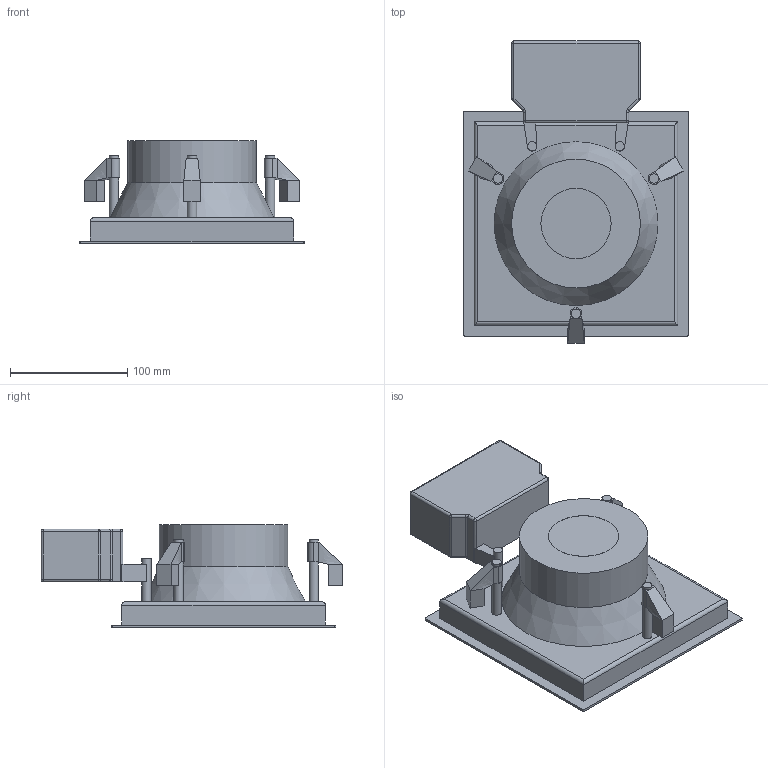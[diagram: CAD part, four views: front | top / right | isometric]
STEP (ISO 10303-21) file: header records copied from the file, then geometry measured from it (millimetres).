
FILE_DESCRIPTION(/* description */ (''),/* implementation_level */ '2;1');
FILE_NAME(/* name */ 'DE-200q.stp',/* time_stamp */ '2024-09-24T15:05:55+02:00',/* author */ ('d.streicher'),/* organization */ (''),/* preprocessor_version */ 'ST-DEVELOPER v20',/* originating_system */ 'Autodesk Inventor 2025',/* authorisation */ '');
FILE_SCHEMA (('AUTOMOTIVE_DESIGN { 1 0 10303 214 3 1 1 }'));
Length unit declared in the file: millimetre
Products named in the file (1): DE-200q
Bounding box: 192 x 258 x 88 mm (x, y, z)
Volume: 1753977.9 mm3; surface area: 157532.9 mm2
Topology: 1 solids, 1 shells, 140 faces, 323 edges, 204 vertices
Faces by surface type: plane 77, cylinder 42, sphere 10, bspline 8, torus 2, cone 1
Full cylindrical faces by diameter (mm): 8 x8, 60 x1, 110 x1
Entity records: 4217 total; most frequent: CARTESIAN_POINT 822, DIRECTION 681, ORIENTED_EDGE 630, EDGE_CURVE 315, AXIS2_PLACEMENT_3D 233, LINE 215, VECTOR 215, VERTEX_POINT 186
